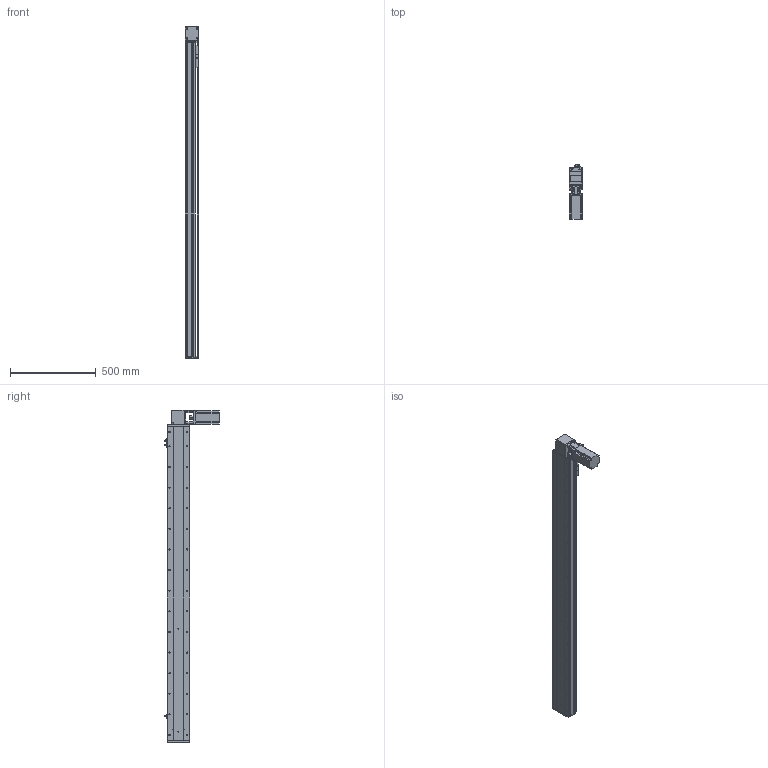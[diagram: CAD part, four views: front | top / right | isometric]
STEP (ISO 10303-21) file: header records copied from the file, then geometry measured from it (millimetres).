
FILE_DESCRIPTION (( 'STEP AP214' ), '1' );
FILE_NAME ('KSD130B-S1600-MLT-CM.STEP', '2019-09-23T07:35:23', ( '微软用户' ), ( '微软中国' ), 'SwSTEP 2.0', 'SolidWorks 2014', '' );
FILE_SCHEMA (( 'AUTOMOTIVE_DESIGN' ));
Length unit declared in the file: millimetre
Products named in the file (12): 台达ECMA－C20807AS伺服电机; 130宽马达安装板1-带电机座750W（1）; 覜茼え100遵圉猾敕; U倰嫖萇EEㄜSX672; 130宽安装板同步带带电机座750W; 130宽盖板半封闭同步带-1600行程; 130宽马达安装板同步带左-改; 130宽马达安装板同步带半封闭; 130宽同步带安装座半封闭; 130宽端盖同步带半封闭; 130宽底板半封闭同步带-1600行程; KSD130B-S1600-MLT-CM
Assembly tree (13 placements, depth 2):
  KSD130B-S1600-MLT-CM
    130宽底板半封闭同步带-1600行程
    130宽端盖同步带半封闭
    130宽同步带安装座半封闭
    130宽马达安装板同步带半封闭
    130宽马达安装板同步带左-改
    130宽盖板半封闭同步带-1600行程
    130宽安装板同步带带电机座750W
    U倰嫖萇EEㄜSX672  x3
    覜茼え100遵圉猾敕
    130宽马达安装板1-带电机座750W（1）
    台达ECMA－C20807AS伺服电机
Bounding box: 81 x 316 x 1933 mm (x, y, z)
Volume: 6581532.5 mm3; surface area: 1809596.3 mm2
Topology: 14 solids, 14 shells, 1679 faces, 4872 edges, 3091 vertices
Faces by surface type: cylinder 829, plane 629, cone 221
Entity records: 56955 total; most frequent: CARTESIAN_POINT 10977, DIRECTION 8590, ORIENTED_EDGE 8300, EDGE_CURVE 4150, AXIS2_PLACEMENT_3D 3176, VERTEX_POINT 2715, VECTOR 2238, LINE 2238
